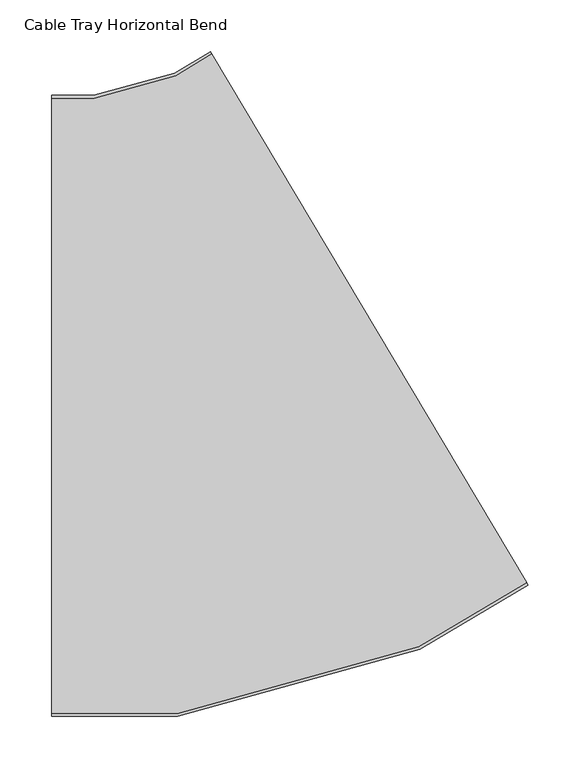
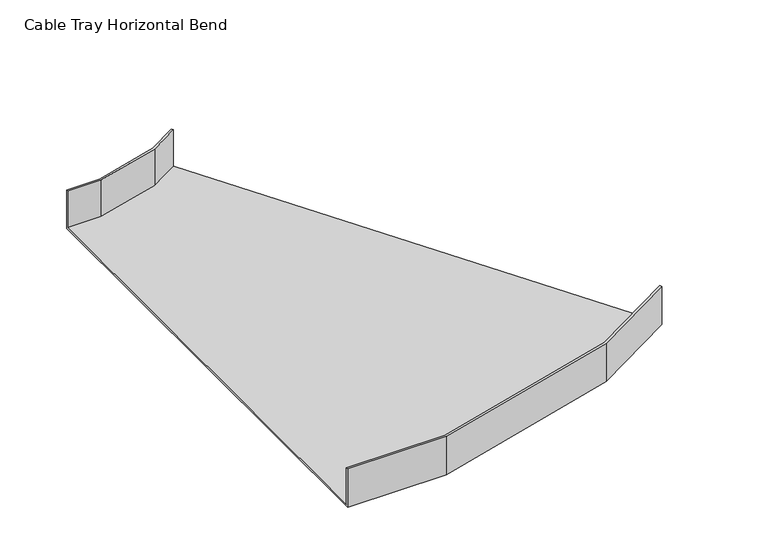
"""IFC4 building model written with IfcOpenShell, lengths in millimetres: cable carrier fitting geometry, Cable Tray Horizontal Bend : ELEC_SUB_CT_N2402."""

from ifc_helpers import new_model, si_unit, origin, place, context, project, spatial, faceted_brep, source, transform, mapped, element, save


def cable_tray_horizontal_bend_7e36f1fa(model_context):
    return source(origin(), model_context, "Body", "Brep", [
        faceted_brep([(-165.212192, -300.0, -25.0), (-165.212192, -300.0, 25.0), (-165.212192, -297.46, 25.0), (-165.212192, -297.46, -22.46), (-165.212192, 297.46, -22.46), (-165.212192, 297.46, 25.0), (-165.212192, 300.0, 25.0), (-165.212192, 300.0, -25.0), (295.4938224, -173.1429158, -25.0), (-11.6435205, 342.2856947, -25.0), (-11.6435205, 342.2856947, 25.0), (-10.3433058, 340.1037136, 25.0), (-10.3433058, 340.1037136, -22.46), (294.1936076, -170.9609347, -22.46), (294.1936076, -170.9609347, 25.0), (295.4938224, -173.1429158, 25.0), (-43.5667036, -300.0, -25.0), (-43.5667036, -300.0, 25.0), (190.9945473, -235.4127026, 25.0), (189.9892527, -233.0549824, 25.0), (-43.9100142, -297.46, 25.0), (-43.9100142, -297.46, -22.46), (189.9892527, -233.0549824, -22.46), (-45.4713177, 319.1713788, -22.46), (-124.3203853, 297.46, -22.46), (-124.3203853, 297.46, 25.0), (-45.4713177, 319.1713788, 25.0), (-46.4766122, 321.5290991, 25.0), (-124.6636959, 300.0, 25.0), (-124.6636959, 300.0, -25.0), (-46.4766122, 321.5290991, -25.0), (190.9945473, -235.4127026, -25.0)], [[[0, 1, 2, 3, 4, 5, 6, 7]], [[8, 9, 10, 11, 12, 13, 14, 15]], [[1, 0, 16, 17]], [[2, 1, 17, 18, 15, 14, 19, 20]], [[3, 2, 20, 21]], [[4, 3, 21, 22, 13, 12, 23, 24]], [[5, 4, 24, 25]], [[6, 5, 25, 26, 11, 10, 27, 28]], [[7, 6, 28, 29]], [[0, 7, 29, 30, 9, 8, 31, 16]], [[17, 16, 31, 18]], [[21, 20, 19, 22]], [[25, 24, 23, 26]], [[29, 28, 27, 30]], [[18, 31, 8, 15]], [[22, 19, 14, 13]], [[26, 23, 12, 11]], [[30, 27, 10, 9]]]),
    ])


if __name__ == "__main__":
    model = new_model("IFC4")
    model_context = context("Model", 3, world=origin())
    ifc_project = project(units=[si_unit("LENGTHUNIT", "METRE", prefix="MILLI")], contexts=[model_context])
    site = spatial("IfcSite", under=ifc_project)
    building = spatial("IfcBuilding", under=site)
    placement = place(None, origin())
    cable_tray_horizontal_bend_shape = cable_tray_horizontal_bend_7e36f1fa(model_context)
    element("IfcCableCarrierFitting", 1, ObjectType="Cable Tray Horizontal Bend : ELEC_SUB_CT_N2402", at=placement, inside=building, context=model_context, shape_type="MappedRepresentation", body=[
        mapped(cable_tray_horizontal_bend_shape, transform((0.0, 0.0, 0.0), x_axis=(1.0, 0.0, 0.0), y_axis=(0.0, 1.0, 0.0), z_axis=(0.0, 0.0, 1.0))),
    ])
    save(model, "model.ifc")
